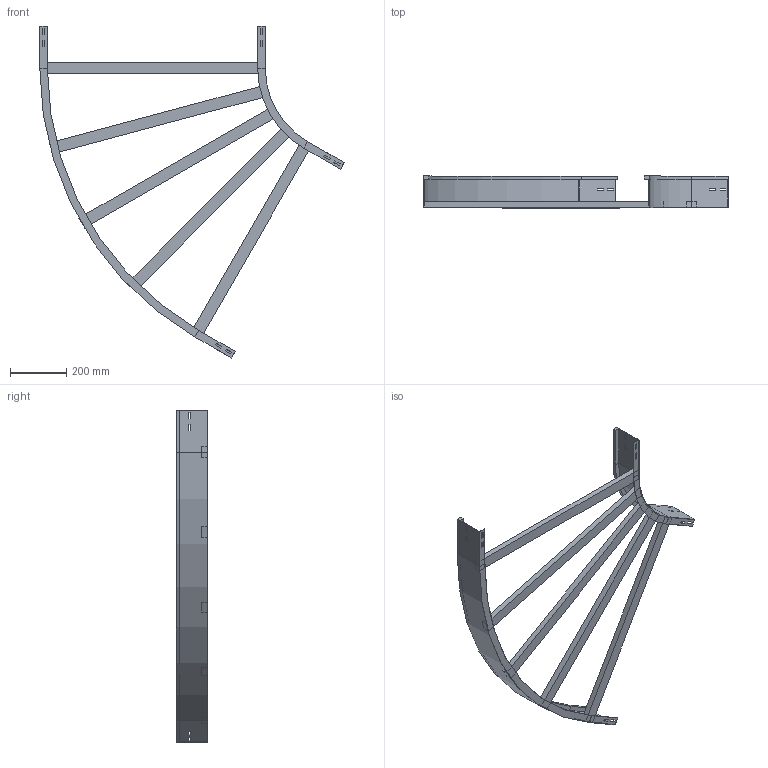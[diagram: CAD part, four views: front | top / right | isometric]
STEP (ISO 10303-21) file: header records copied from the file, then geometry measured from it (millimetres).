
FILE_DESCRIPTION (( 'STEP AP214' ), '1' );
FILE_NAME ('A2_13B3J800.step', '2025-02-21T15:19:44', ( '' ), ( '' ), 'SwSTEP 2.0', 'SolidWorks 2023', '' );
FILE_SCHEMA (( 'AUTOMOTIVE_DESIGN' ));
Length unit declared in the file: millimetre
Products named in the file (4): A2_13B3J800; TRAVERSINO_800; A2_LONGH.ESTERNO 60°_H112.5_R300+800; A2_LONGH.INTERNO 60°_H112.5_R300
Assembly tree (7 placements, depth 2):
  A2_13B3J800
    A2_LONGH.INTERNO 60°_H112.5_R300
    A2_LONGH.ESTERNO 60°_H112.5_R300+800
    TRAVERSINO_800  x5
Bounding box: 1079.9 x 112.5 x 1177.63 mm (x, y, z)
Volume: 4183729.8 mm3; surface area: 1131025.8 mm2
Topology: 7 solids, 7 shells, 146 faces, 364 edges, 232 vertices
Faces by surface type: plane 138, cylinder 8
Entity records: 3837 total; most frequent: CARTESIAN_POINT 648, ORIENTED_EDGE 632, DIRECTION 596, EDGE_CURVE 316, VECTOR 300, LINE 300, VERTEX_POINT 200, EDGE_LOOP 154
